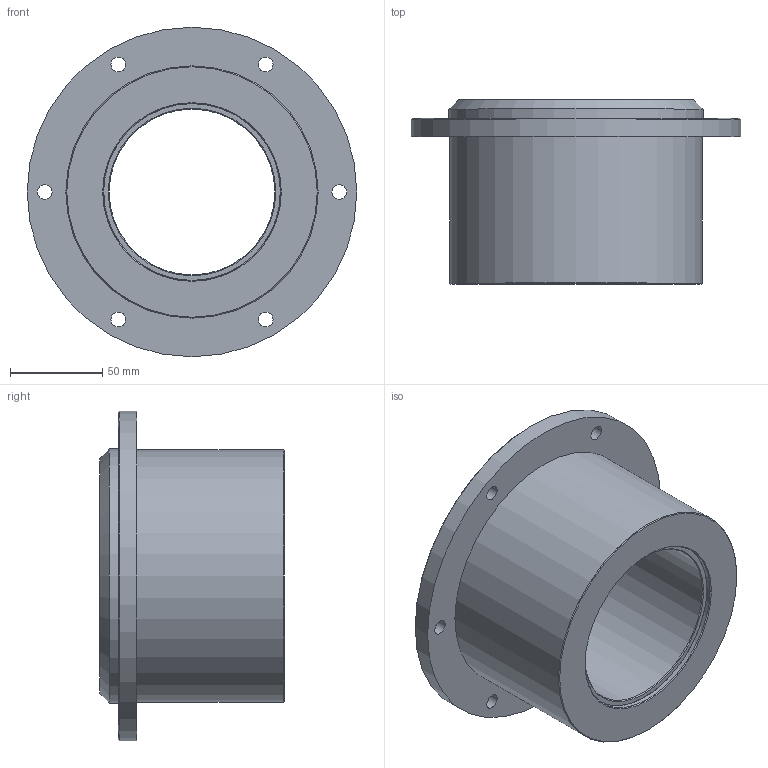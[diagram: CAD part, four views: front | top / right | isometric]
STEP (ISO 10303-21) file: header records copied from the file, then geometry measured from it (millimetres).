
FILE_DESCRIPTION(('STEP AP214'),'1');
FILE_NAME('C:/Projets/Serie 10.xx.xx/10.13.09.step','2011-11-10T15:51:29',(' '),(' '),'Spatial InterOp 3D',' ',' ');
FILE_SCHEMA(('automotive_design'));
Length unit declared in the file: metre
Products named in the file (3): boitier 09; rotule 09; 1
Bounding box: 179 x 100 x 179 mm (x, y, z)
Volume: 839587.2 mm3; surface area: 170882.2 mm2
Topology: 2 solids, 2 shells, 55 faces, 1152 edges, 2116 vertices
Faces by surface type: cone 20, cylinder 19, plane 14, sphere 2
Full cylindrical faces by diameter (mm): 8 x6, 90 x1, 96 x1, 137 x1, 138 x1, 179 x1
Entity records: 14203 total; most frequent: CARTESIAN_POINT 1314, DIRECTION 1293, STYLED_ITEM 1075, PRESENTATION_STYLE_ASSIGNMENT 1075, COLOUR_RGB 1075, LINE 1039, VECTOR 1039, TRIMMED_CURVE 1020
